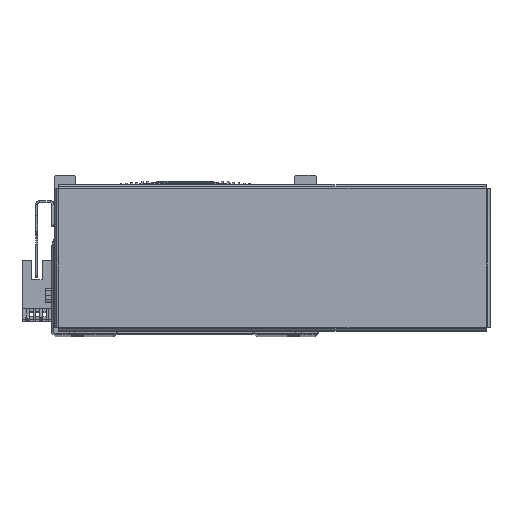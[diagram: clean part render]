
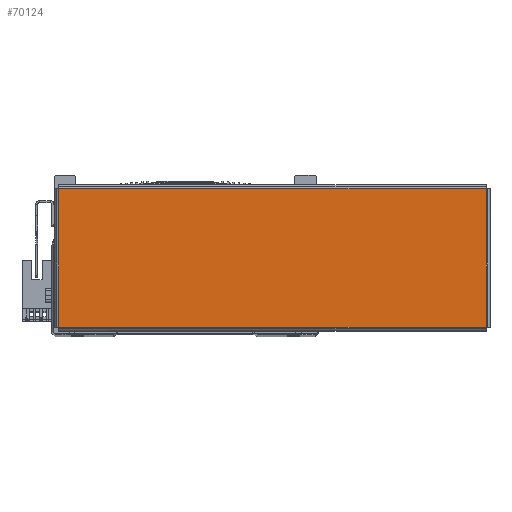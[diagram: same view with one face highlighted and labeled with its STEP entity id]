
A CAD part, top view. The second image highlights one B-rep face of the part: STEP entity #70124.
In plain terms, the highlighted planar face has unit normal (0, 0, 1) as drawn and (0, 0, -1) by its records, which use the part's own axes.
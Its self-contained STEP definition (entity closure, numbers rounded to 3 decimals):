
#441 = CARTESIAN_POINT ( 'NONE',  ( 97.863, -31.763, -1. ) ) ;
#566 = CARTESIAN_POINT ( 'NONE',  ( -97.863, -31.763, -1. ) ) ;
#627 = CARTESIAN_POINT ( 'NONE',  ( -97.863, 31.763, -1. ) ) ;
#7975 = VERTEX_POINT ( 'NONE', #441 ) ;
#7984 = VERTEX_POINT ( 'NONE', #566 ) ;
#7986 = VERTEX_POINT ( 'NONE', #627 ) ;
#8030 = VERTEX_POINT ( 'NONE', #75977 ) ;
#21218 = EDGE_LOOP ( 'NONE', ( #23175, #23179, #23228, #23156 ) ) ;
#23156 = ORIENTED_EDGE ( 'NONE', *, *, #73350, .T. ) ;
#23175 = ORIENTED_EDGE ( 'NONE', *, *, #73439, .T. ) ;
#23179 = ORIENTED_EDGE ( 'NONE', *, *, #73348, .T. ) ;
#23228 = ORIENTED_EDGE ( 'NONE', *, *, #73442, .T. ) ;
#49265 = DIRECTION ( 'NONE',  ( 1., 0., 0. ) ) ;
#49279 = PLANE ( 'NONE',  #62238 ) ;
#49286 = DIRECTION ( 'NONE',  ( 0., 0., 1. ) ) ;
#49339 = CARTESIAN_POINT ( 'NONE',  ( 0., 0., -1. ) ) ;
#62238 = AXIS2_PLACEMENT_3D ( 'NONE', #49339, #49286, #49265 ) ;
#64287 = FACE_OUTER_BOUND ( 'NONE', #21218, .T. ) ;
#69501 = VECTOR ( 'NONE', #73719, 1000. ) ;
#69542 = VECTOR ( 'NONE', #73642, 1000. ) ;
#69589 = LINE ( 'NONE', #73663, #69501 ) ;
#69592 = LINE ( 'NONE', #73661, #69542 ) ;
#69706 = LINE ( 'NONE', #73958, #69804 ) ;
#69749 = VECTOR ( 'NONE', #73932, 1000. ) ;
#69804 = VECTOR ( 'NONE', #73919, 1000. ) ;
#69810 = LINE ( 'NONE', #73961, #69749 ) ;
#70124 = ADVANCED_FACE ( 'NONE', ( #64287 ), #49279, .F. ) ;
#73348 = EDGE_CURVE ( 'NONE', #7975, #7984, #69592, .T. ) ;
#73350 = EDGE_CURVE ( 'NONE', #7986, #8030, #69589, .T. ) ;
#73439 = EDGE_CURVE ( 'NONE', #8030, #7975, #69706, .T. ) ;
#73442 = EDGE_CURVE ( 'NONE', #7984, #7986, #69810, .T. ) ;
#73642 = DIRECTION ( 'NONE',  ( -1., 0., 0. ) ) ;
#73661 = CARTESIAN_POINT ( 'NONE',  ( 97.893, -31.763, -1. ) ) ;
#73663 = CARTESIAN_POINT ( 'NONE',  ( -97.893, 31.763, -1. ) ) ;
#73719 = DIRECTION ( 'NONE',  ( 1., 0., 0. ) ) ;
#73919 = DIRECTION ( 'NONE',  ( 0., -1., 0. ) ) ;
#73932 = DIRECTION ( 'NONE',  ( 0., 1., 0. ) ) ;
#73958 = CARTESIAN_POINT ( 'NONE',  ( 97.863, 31.793, -1. ) ) ;
#73961 = CARTESIAN_POINT ( 'NONE',  ( -97.863, -31.793, -1. ) ) ;
#75977 = CARTESIAN_POINT ( 'NONE',  ( 97.863, 31.763, -1. ) ) ;
